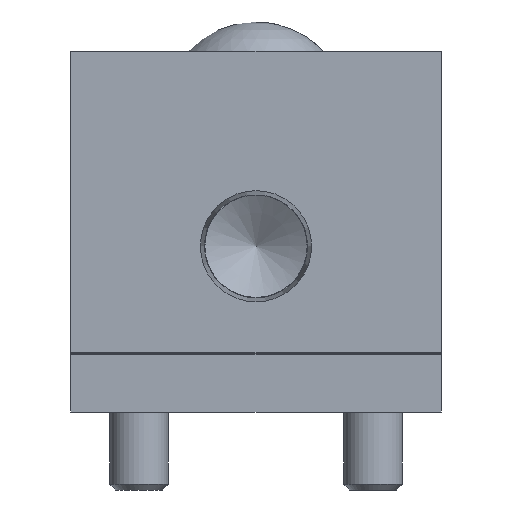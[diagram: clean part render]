
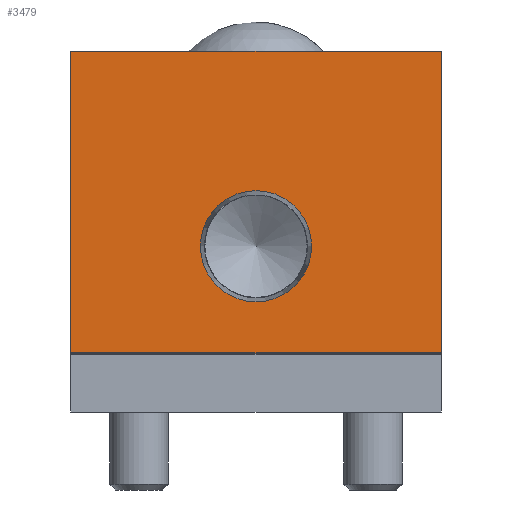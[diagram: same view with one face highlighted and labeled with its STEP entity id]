
A CAD part, front view. The second image highlights one B-rep face of the part: STEP entity #3479.
In plain terms, the highlighted planar face has unit normal (0, -1, 0).
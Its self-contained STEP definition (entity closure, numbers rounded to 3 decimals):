
#255=FACE_BOUND('',#758,.T.);
#344=CIRCLE('',#3680,5.704);
#500=FACE_OUTER_BOUND('',#757,.T.);
#757=EDGE_LOOP('',(#2486,#2487,#2488,#2489));
#758=EDGE_LOOP('',(#2490));
#1041=LINE('',#5054,#1299);
#1044=LINE('',#5059,#1302);
#1046=LINE('',#5067,#1304);
#1066=LINE('',#5116,#1324);
#1299=VECTOR('',#4071,30.9);
#1302=VECTOR('',#4076,38.);
#1304=VECTOR('',#4084,30.9);
#1324=VECTOR('',#4136,38.);
#1550=VERTEX_POINT('',#5051);
#1551=VERTEX_POINT('',#5053);
#1552=VERTEX_POINT('',#5057);
#1555=VERTEX_POINT('',#5065);
#1559=VERTEX_POINT('',#5079);
#1862=EDGE_CURVE('',#1551,#1550,#1041,.T.);
#1865=EDGE_CURVE('',#1550,#1552,#1044,.T.);
#1869=EDGE_CURVE('',#1555,#1552,#1046,.T.);
#1874=EDGE_CURVE('',#1559,#1559,#344,.T.);
#1893=EDGE_CURVE('',#1555,#1551,#1066,.T.);
#2486=ORIENTED_EDGE('',*,*,#1893,.T.);
#2487=ORIENTED_EDGE('',*,*,#1862,.T.);
#2488=ORIENTED_EDGE('',*,*,#1865,.T.);
#2489=ORIENTED_EDGE('',*,*,#1869,.F.);
#2490=ORIENTED_EDGE('',*,*,#1874,.T.);
#3147=PLANE('',#3742);
#3479=ADVANCED_FACE('',(#500,#255),#3147,.T.);
#3680=AXIS2_PLACEMENT_3D('',#5080,#4099,#4100);
#3742=AXIS2_PLACEMENT_3D('',#5278,#4274,#4275);
#4071=DIRECTION('',(0.,0.,1.));
#4076=DIRECTION('',(-1.,0.,0.));
#4084=DIRECTION('',(0.,0.,1.));
#4099=DIRECTION('center_axis',(0.,1.,0.));
#4100=DIRECTION('ref_axis',(1.,0.,0.));
#4136=DIRECTION('',(1.,0.,0.));
#4274=DIRECTION('center_axis',(0.,-1.,0.));
#4275=DIRECTION('ref_axis',(0.,0.,-1.));
#5051=CARTESIAN_POINT('',(19.,0.,37.));
#5053=CARTESIAN_POINT('',(19.,0.,6.1));
#5054=CARTESIAN_POINT('',(19.,0.,0.));
#5057=CARTESIAN_POINT('',(-19.,0.,37.));
#5059=CARTESIAN_POINT('',(19.,0.,37.));
#5065=CARTESIAN_POINT('',(-19.,0.,6.1));
#5067=CARTESIAN_POINT('',(-19.,0.,0.));
#5079=CARTESIAN_POINT('',(5.704,0.,17.));
#5080=CARTESIAN_POINT('Origin',(0.,0.,17.));
#5116=CARTESIAN_POINT('',(19.,0.,6.1));
#5278=CARTESIAN_POINT('Origin',(19.,0.,0.));
